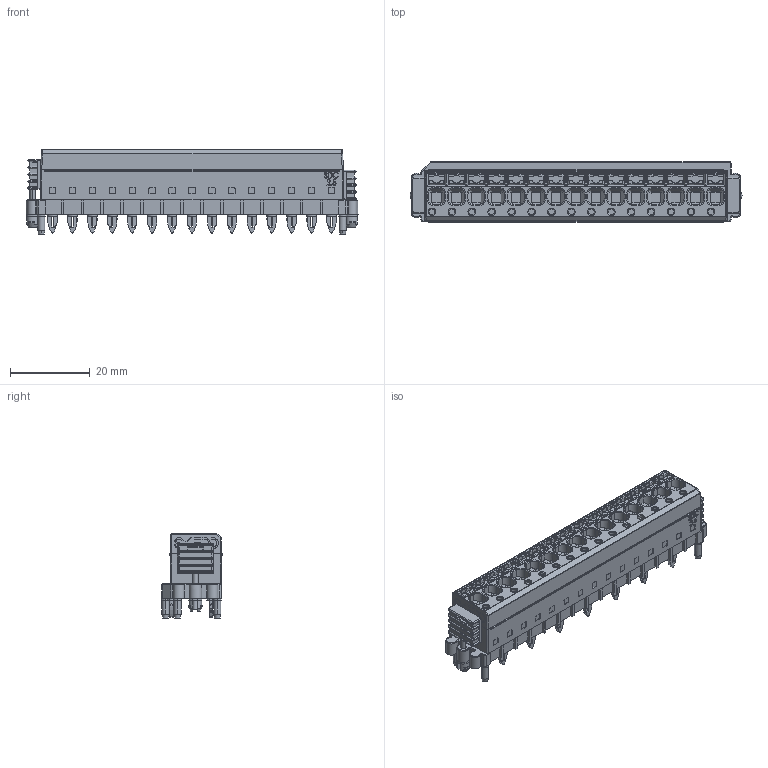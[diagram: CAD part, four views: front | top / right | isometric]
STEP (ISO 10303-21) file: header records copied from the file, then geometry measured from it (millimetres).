
FILE_DESCRIPTION(('Creo Elements/Direct Modeling STEP Export'),'2;1');
FILE_NAME('D:/temp/JobSpoolerServerData/JobServer Files/188bc1e1-a21d-404d-89a0-05c8064f7cc5/work/output/model.stp','2018-07-31T 7:23:31',(''),(''),'Creo Elements/Direct Modeling STEP processor for AP214 (Solid Model)','Creo Elements/Direct Modeling 18.1I 14-Aug-2016 (C) Parametric Technology GmbH','');
FILE_SCHEMA(('AUTOMOTIVE_DESIGN { 1 0 10303 214 1 1 1 1 }'));
Length unit declared in the file: millimetre
Products named in the file (8): PCB_Bohrloch.3.2; SDC_2_5_5_GEH; Ver._Bohrloch; SDC_2.5_Schieber; Position_Bohrloch; SDC-2.5-Seitenteil_links; SDC-2.5-Seitenteil_rechts; SDC_2.5_15-PV-5.0.1
Assembly tree (26 placements, depth 3):
  SDC_2.5_15-PV-5.0.1
    PCB_Bohrloch.3.2  x15
    SDC-2.5-Seitenteil_rechts
      Ver._Bohrloch
      SDC_2.5_Schieber
      Position_Bohrloch  x2
    SDC-2.5-Seitenteil_links
      Position_Bohrloch  x2
      SDC_2.5_Schieber
      Ver._Bohrloch
    SDC_2_5_5_GEH
Bounding box: 83.3 x 15.3 x 21.2 mm (x, y, z)
Volume: 15875.7 mm3; surface area: 8979.9 mm2
Topology: 24 solids, 24 shells, 2745 faces, 7250 edges, 4699 vertices
Faces by surface type: plane 1515, cylinder 870, torus 155, bspline 120, cone 52, extrusion 23, sphere 10
Entity records: 125179 total; most frequent: CARTESIAN_POINT 42328, ORIENTED_EDGE 13606, DIRECTION 12098, EDGE_CURVE 6803, VERTEX_POINT 4425, VECTOR 4402, LINE 4379, AXIS2_PLACEMENT_3D 3848
